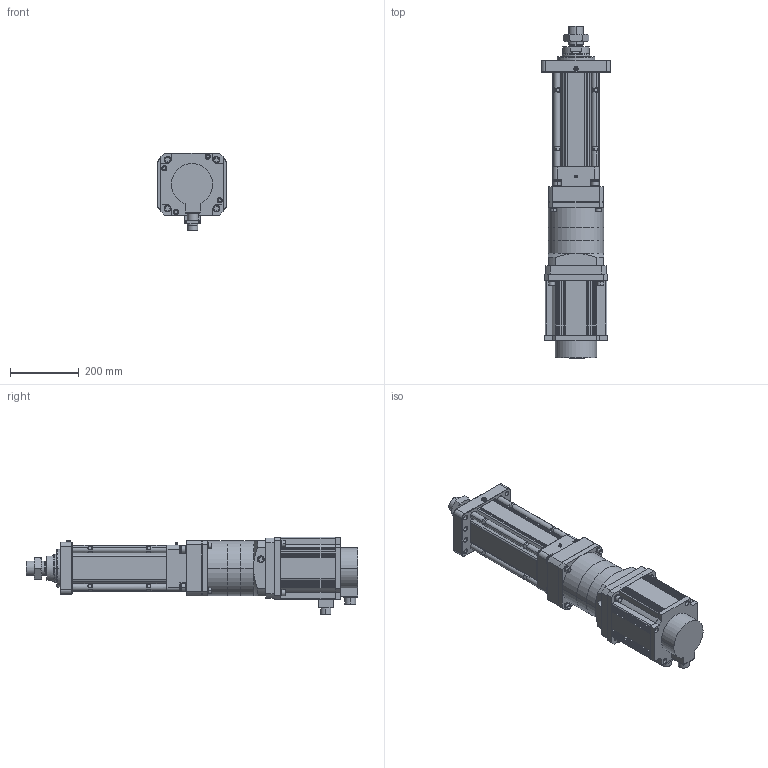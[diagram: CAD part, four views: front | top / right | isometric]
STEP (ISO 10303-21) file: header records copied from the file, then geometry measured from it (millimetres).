
FILE_DESCRIPTION((''),'2;1');
FILE_NAME('HEB125-100-D_ASM','2020-09-16T',('ASUS20200'),(''),'CREO PARAMETRIC BY PTC INC, 2014190','CREO PARAMETRIC BY PTC INC, 2014190','');
FILE_SCHEMA(('CONFIG_CONTROL_DESIGN'));
Length unit declared in the file: millimetre
Products named in the file (34): HEB125-D-P-001-X1; HEB125-D-P-002-X1; HEB125-D-P-003-X1; SLM-01; YZ-M6X1; TD-14; M14X75; HEB125-D-P-008-X1; M14X50; HEB125-D-P-004-X1; HEB125-D-P-005-X1; LM-M42X2; HEB125-100-D-P_ASM; HEB125-D-010-X1-PLF160N; ______12_1_2; __1_1__1_2; __-__25_1_2; PLFK160___1_2_ASM; ASM0002_ASM; TD-12; TD-10; M10X40; 130__2; _10; 180__-5982; 180__-10214; 21_5N__; 180___-1762; 130__; 180___-6000; SMA-452K20-GJ_1_ASM; SMA-452K20-GJ_ASM; M12X45; HEB125-100-D_ASM
Assembly tree (62 placements, depth 4):
  HEB125-100-D_ASM
    HEB125-100-D-P_ASM
      HEB125-D-P-001-X1
      HEB125-D-P-002-X1
      HEB125-D-P-003-X1
      SLM-01
      YZ-M6X1
      TD-14  x8
      M14X75  x4
      HEB125-D-P-008-X1  x4
      M14X50  x4
      HEB125-D-P-004-X1
      HEB125-D-P-005-X1
      LM-M42X2
    HEB125-D-010-X1-PLF160N
    ASM0002_ASM
      PLFK160___1_2_ASM
        ______12_1_2
        __1_1__1_2
        __-__25_1_2
    TD-12  x5
    TD-10  x4
    M10X40  x4
    SMA-452K20-GJ_ASM
      SMA-452K20-GJ_1_ASM
        130__2
        _10
        180__-5982
        180__-10214
        21_5N__
        180___-1762
        130__
        180___-6000
    M12X45  x4
Bounding box: 200 x 963 x 224.92 mm (x, y, z)
Volume: 11214682.2 mm3; surface area: 1734513.5 mm2
Topology: 57 solids, 83 shells, 2678 faces, 6489 edges, 4083 vertices
Faces by surface type: plane 1181, cylinder 836, cone 519, torus 138, bspline 2, sphere 2
Entity records: 64625 total; most frequent: CARTESIAN_POINT 12529, DIRECTION 11269, ORIENTED_EDGE 10278, EDGE_CURVE 5179, AXIS2_PLACEMENT_3D 4208, VERTEX_POINT 3269, VECTOR 2853, LINE 2853
